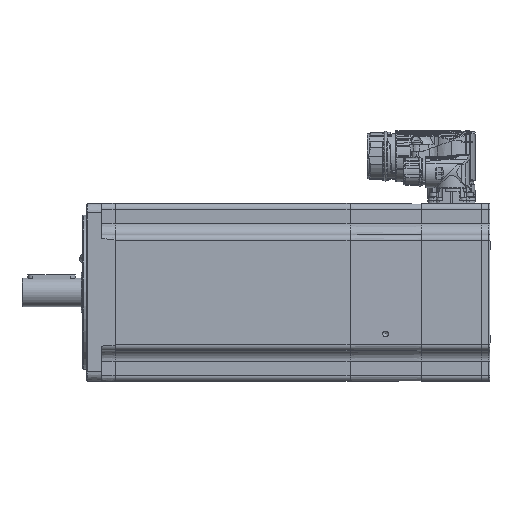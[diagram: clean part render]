
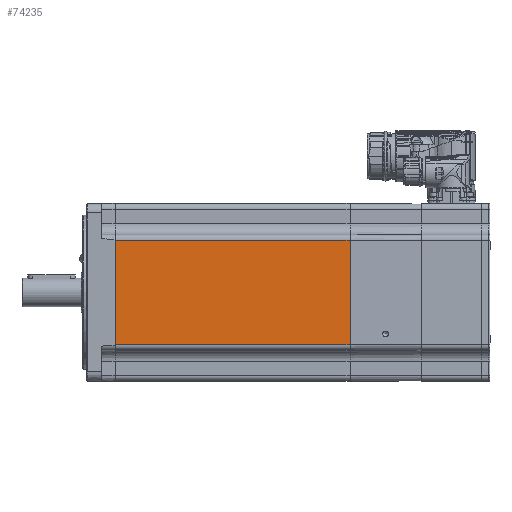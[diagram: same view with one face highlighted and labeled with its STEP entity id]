
A CAD part, left-side view. The second image highlights one B-rep face of the part: STEP entity #74235.
In plain terms, the highlighted planar face has unit normal (-1, 0, 0) as drawn and (0, -1, 0) by its records, which use the part's own axes.
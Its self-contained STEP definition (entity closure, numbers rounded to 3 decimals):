
#3688=LINE('',#150631,#6366);
#3709=LINE('',#150729,#6387);
#3712=LINE('',#150762,#6390);
#3713=LINE('',#150763,#6391);
#6366=VECTOR('',#90368,1000.);
#6387=VECTOR('',#90445,1000.);
#6390=VECTOR('',#90484,1000.);
#6391=VECTOR('',#90485,1000.);
#23255=ORIENTED_EDGE('',*,*,#31709,.F.);
#23256=ORIENTED_EDGE('',*,*,#31770,.T.);
#23257=ORIENTED_EDGE('',*,*,#31757,.T.);
#23258=ORIENTED_EDGE('',*,*,#31771,.T.);
#31709=EDGE_CURVE('',#36958,#36959,#3688,.T.);
#31757=EDGE_CURVE('',#37007,#37006,#3709,.T.);
#31770=EDGE_CURVE('',#36958,#37007,#3712,.T.);
#31771=EDGE_CURVE('',#37006,#36959,#3713,.F.);
#36958=VERTEX_POINT('',#150632);
#36959=VERTEX_POINT('',#150633);
#37006=VERTEX_POINT('',#150728);
#37007=VERTEX_POINT('',#150730);
#43295=EDGE_LOOP('',(#23255,#23256,#23257,#23258));
#47369=FACE_BOUND('',#43295,.T.);
#48942=PLANE('',#78974);
#74235=ADVANCED_FACE('',(#47369),#48942,.T.);
#78974=AXIS2_PLACEMENT_3D('',#150761,#90482,#90483);
#90368=DIRECTION('',(0.,0.,-1.));
#90445=DIRECTION('',(0.,0.,-1.));
#90482=DIRECTION('',(0.,-1.,0.));
#90483=DIRECTION('',(0.,0.,-1.));
#90484=DIRECTION('',(-1.,0.,0.));
#90485=DIRECTION('',(-1.,0.,0.));
#150631=CARTESIAN_POINT('',(-1.,-75.,75.));
#150632=CARTESIAN_POINT('',(-1.,-75.,44.));
#150633=CARTESIAN_POINT('',(-1.,-75.,-44.));
#150728=CARTESIAN_POINT('',(-199.,-75.,-44.));
#150729=CARTESIAN_POINT('',(-199.,-75.,75.));
#150730=CARTESIAN_POINT('',(-199.,-75.,44.));
#150761=CARTESIAN_POINT('',(-300.,-75.,75.));
#150762=CARTESIAN_POINT('',(-300.,-75.,44.));
#150763=CARTESIAN_POINT('',(0.,-75.,-44.));
